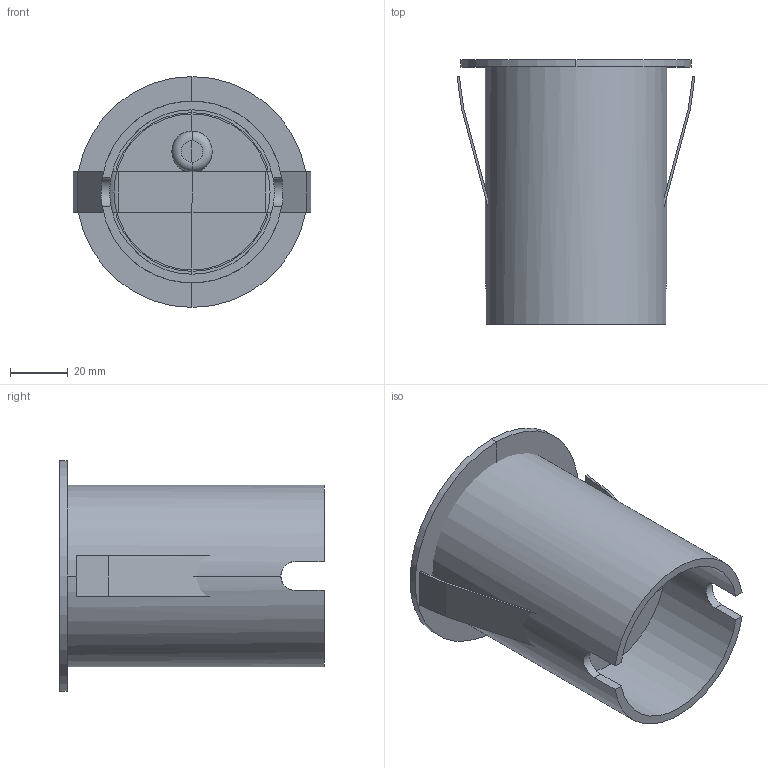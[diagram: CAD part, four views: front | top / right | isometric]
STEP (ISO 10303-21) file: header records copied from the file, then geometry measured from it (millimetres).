
FILE_DESCRIPTION(/* description */ (''),/* implementation_level */ '2;1');
FILE_NAME(/* name */ 'C:\Users\Franco Sartori E\Documents\FARO\DUPLICADO\Modelos\01_Digitalizados\0_GRUND\03_Publicación\70731.stp',/* time_stamp */ '2020-07-31T09:23:55+02:00',/* author */ ('Franco Sartori E'),/* organization */ (''),/* preprocessor_version */ 'ST-DEVELOPER v18',/* originating_system */ 'AutoCAD Mechanical',/* authorisation */ '');
FILE_SCHEMA (('AUTOMOTIVE_DESIGN { 1 0 10303 214 3 1 1 }'));
Length unit declared in the file: millimetre
Products named in the file (2): Product; 70728_70731 - GRUND-415387-_3D_
Assembly tree (1 placements, depth 2):
  Product
    70728_70731 - GRUND-415387-_3D_
Bounding box: 82.43 x 91.6 x 80 mm (x, y, z)
Volume: 178977.9 mm3; surface area: 77373.1 mm2
Topology: 5 solids, 5 shells, 145 faces, 304 edges, 168 vertices
Faces by surface type: plane 81, cylinder 62, torus 2
Entity records: 4093 total; most frequent: CARTESIAN_POINT 916, DIRECTION 706, ORIENTED_EDGE 608, EDGE_CURVE 304, AXIS2_PLACEMENT_3D 266, LINE 174, VECTOR 174, VERTEX_POINT 168
